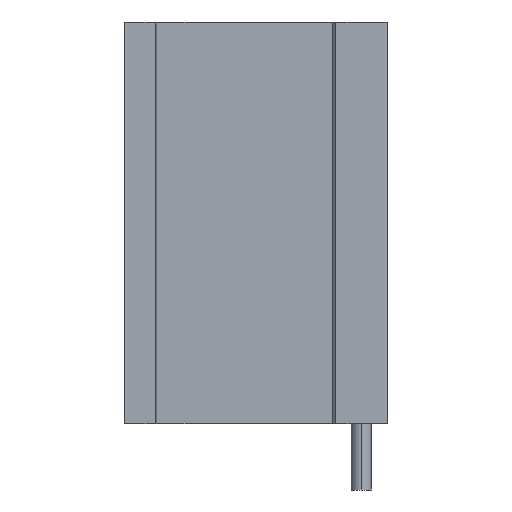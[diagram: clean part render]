
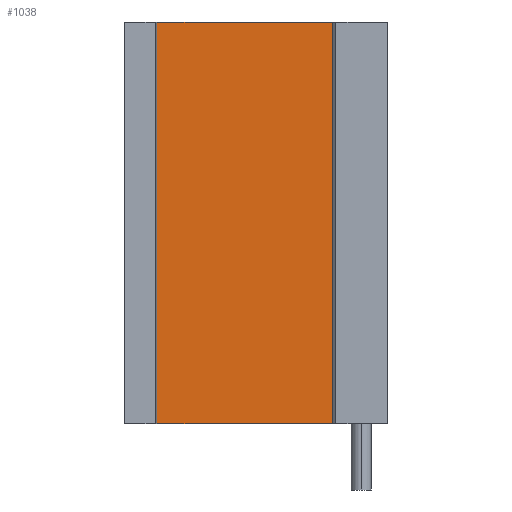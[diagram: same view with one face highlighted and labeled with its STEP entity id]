
A CAD part, left-side view. The second image highlights one B-rep face of the part: STEP entity #1038.
In plain terms, the highlighted planar face has unit normal (-1, 0, 0).
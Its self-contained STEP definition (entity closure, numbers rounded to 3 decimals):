
#27 = LINE ( 'NONE', #804, #899 ) ;
#99 = VECTOR ( 'NONE', #1143, 1000. ) ;
#141 = VERTEX_POINT ( 'NONE', #632 ) ;
#213 = DIRECTION ( 'NONE',  ( 0., 1., 0. ) ) ;
#265 = EDGE_LOOP ( 'NONE', ( #1166, #1164, #1340, #714 ) ) ;
#266 = VERTEX_POINT ( 'NONE', #927 ) ;
#273 = DIRECTION ( 'NONE',  ( 0., 0., -1. ) ) ;
#493 = EDGE_CURVE ( 'NONE', #1300, #266, #882, .T. ) ;
#548 = AXIS2_PLACEMENT_3D ( 'NONE', #1648, #1804, #213 ) ;
#632 = CARTESIAN_POINT ( 'NONE',  ( -3.8, -9.795, 121. ) ) ;
#639 = PLANE ( 'NONE',  #548 ) ;
#669 = CARTESIAN_POINT ( 'NONE',  ( -3.8, -9.795, 0. ) ) ;
#683 = VECTOR ( 'NONE', #1486, 1000. ) ;
#714 = ORIENTED_EDGE ( 'NONE', *, *, #1737, .T. ) ;
#804 = CARTESIAN_POINT ( 'NONE',  ( -3.8, -62.7, 121. ) ) ;
#859 = VECTOR ( 'NONE', #273, 1000. ) ;
#882 = LINE ( 'NONE', #1137, #99 ) ;
#899 = VECTOR ( 'NONE', #1632, 1000. ) ;
#927 = CARTESIAN_POINT ( 'NONE',  ( -3.8, -62.7, 0. ) ) ;
#1027 = EDGE_CURVE ( 'NONE', #141, #1300, #27, .T. ) ;
#1038 = ADVANCED_FACE ( 'NONE', ( #1108 ), #639, .F. ) ;
#1056 = LINE ( 'NONE', #1336, #683 ) ;
#1064 = EDGE_CURVE ( 'NONE', #1661, #266, #1056, .T. ) ;
#1108 = FACE_OUTER_BOUND ( 'NONE', #265, .T. ) ;
#1137 = CARTESIAN_POINT ( 'NONE',  ( -3.8, -62.7, 121. ) ) ;
#1143 = DIRECTION ( 'NONE',  ( 0., 0., -1. ) ) ;
#1164 = ORIENTED_EDGE ( 'NONE', *, *, #493, .F. ) ;
#1166 = ORIENTED_EDGE ( 'NONE', *, *, #1064, .T. ) ;
#1300 = VERTEX_POINT ( 'NONE', #1577 ) ;
#1336 = CARTESIAN_POINT ( 'NONE',  ( -3.8, -62.7, 0. ) ) ;
#1340 = ORIENTED_EDGE ( 'NONE', *, *, #1027, .F. ) ;
#1486 = DIRECTION ( 'NONE',  ( 0., -1., 0. ) ) ;
#1577 = CARTESIAN_POINT ( 'NONE',  ( -3.8, -62.7, 121. ) ) ;
#1623 = LINE ( 'NONE', #1833, #859 ) ;
#1632 = DIRECTION ( 'NONE',  ( 0., -1., 0. ) ) ;
#1648 = CARTESIAN_POINT ( 'NONE',  ( -3.8, -62.7, 121. ) ) ;
#1661 = VERTEX_POINT ( 'NONE', #669 ) ;
#1737 = EDGE_CURVE ( 'NONE', #141, #1661, #1623, .T. ) ;
#1804 = DIRECTION ( 'NONE',  ( 1., 0., 0. ) ) ;
#1833 = CARTESIAN_POINT ( 'NONE',  ( -3.8, -9.795, 121. ) ) ;
